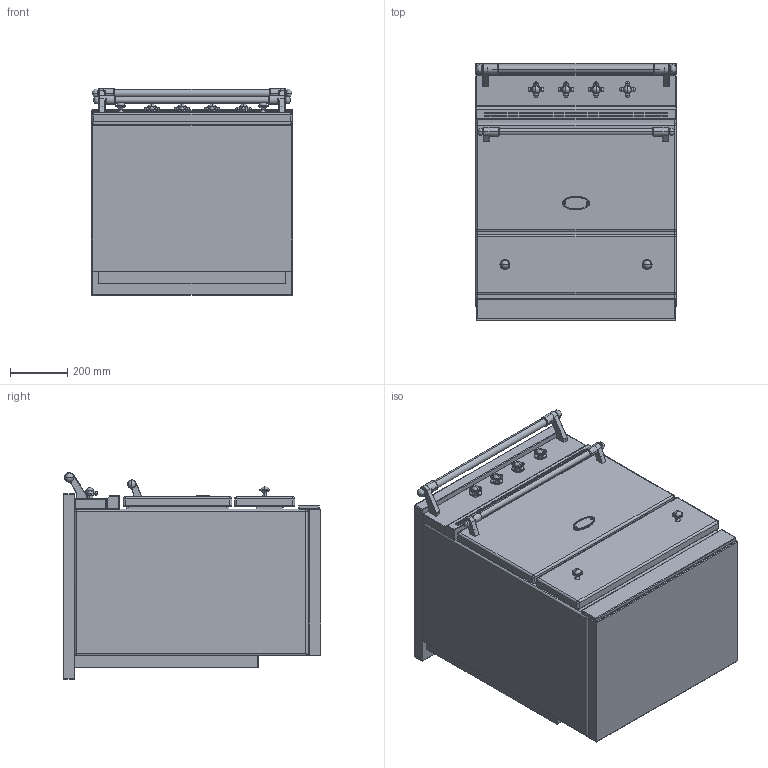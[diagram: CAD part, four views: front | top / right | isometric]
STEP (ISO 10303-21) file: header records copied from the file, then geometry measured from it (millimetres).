
FILE_DESCRIPTION((''),'2;1');
FILE_NAME('LVI731_ASM','2014-07-07T',('p.perraut'),(''),'PRO/ENGINEER BY PARAMETRIC TECHNOLOGY CORPORATION, 2014090','PRO/ENGINEER BY PARAMETRIC TECHNOLOGY CORPORATION, 2014090','');
FILE_SCHEMA(('AP203_CONFIGURATION_CONTROLLED_3D_DESIGN_OF_MECHANICAL_PARTS_AND_ASSEMBLIES_MIM_LF { 1 0 10303 403 2 1 2 }'));
Products named in the file (17): BASE_EXPORT_CORMATIN_3F; 65650003; 65650004; 6531940; 6531941; 6538399; 1931942; 6518450; 6531942_ASM; 6531943; 65049009; 65650001; BASE_EXPORT_CORMATIN_3F_ASM; TABLE_700_VITRO_INDUCT; 65052012; TABLE_700_INDUCT_ASM; LVI731_ASM
Assembly tree (20 placements, depth 4):
  LVI731_ASM
    BASE_EXPORT_CORMATIN_3F_ASM
      BASE_EXPORT_CORMATIN_3F
      65650003
      65650004
      6531940
      6531941
      6531942_ASM  x4
        6538399
        1931942
        6518450
      6531943  x2
      65049009
      65650001
    TABLE_700_INDUCT_ASM
      TABLE_700_VITRO_INDUCT
      65052012
Bounding box: 700 x 900.68 x 724 mm (x, y, z)
Volume: 365236179 mm3; surface area: 6340405.3 mm2
Topology: 25 solids, 31 shells, 2329 faces, 6393 edges, 4293 vertices
Faces by surface type: plane 1300, cylinder 602, sphere 117, extrusion 114, torus 110, cone 42, bspline 36, revolution 8
Entity records: 62485 total; most frequent: CARTESIAN_POINT 12316, DIRECTION 7955, ORIENTED_EDGE 6872, EDGE_CURVE 3446, PRESENTATION_STYLE_ASSIGNMENT 2655, AXIS2_PLACEMENT_3D 2653, STYLED_ITEM 2599, VECTOR 2590
